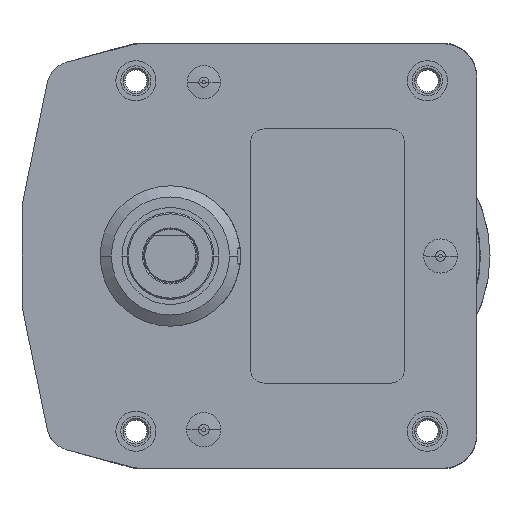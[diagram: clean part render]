
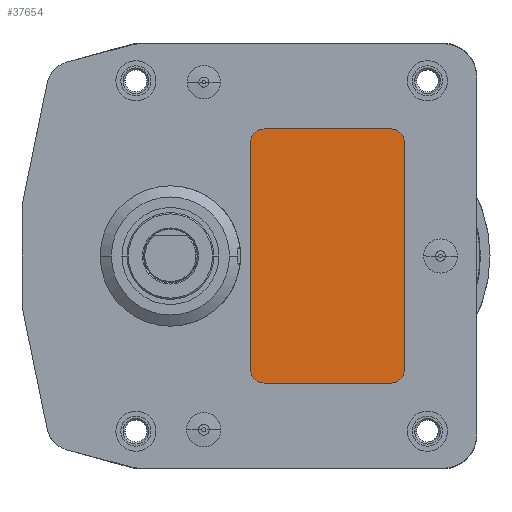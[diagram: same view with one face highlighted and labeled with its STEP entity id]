
A CAD part, left-side view. The second image highlights one B-rep face of the part: STEP entity #37654.
In plain terms, the highlighted planar face has unit normal (-1, 0, 0).
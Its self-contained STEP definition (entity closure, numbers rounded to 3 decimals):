
#4104=DIRECTION('',(0.,-1.,0.));
#4105=VECTOR('',#4104,19.);
#4106=CARTESIAN_POINT('',(-15.55,12.8,-19.));
#4107=LINE('',#4106,#4105);
#4116=DIRECTION('',(0.,0.,-1.));
#4117=VECTOR('',#4116,34.);
#4118=CARTESIAN_POINT('',(-15.55,14.8,17.));
#4119=LINE('',#4118,#4117);
#4128=DIRECTION('',(0.,1.,0.));
#4129=VECTOR('',#4128,19.);
#4130=CARTESIAN_POINT('',(-15.55,-6.2,19.));
#4131=LINE('',#4130,#4129);
#4140=DIRECTION('',(0.,0.,1.));
#4141=VECTOR('',#4140,34.);
#4142=CARTESIAN_POINT('',(-15.55,-8.2,-17.));
#4143=LINE('',#4142,#4141);
#4152=CARTESIAN_POINT('',(-15.55,12.8,17.));
#4153=DIRECTION('',(1.,0.,0.));
#4154=DIRECTION('',(0.,1.,0.));
#4155=AXIS2_PLACEMENT_3D('',#4152,#4153,#4154);
#4157=CARTESIAN_POINT('',(-15.55,-6.2,17.));
#4158=DIRECTION('',(1.,0.,0.));
#4159=DIRECTION('',(0.,0.,1.));
#4160=AXIS2_PLACEMENT_3D('',#4157,#4158,#4159);
#4162=CARTESIAN_POINT('',(-15.55,-6.2,-17.));
#4163=DIRECTION('',(1.,0.,0.));
#4164=DIRECTION('',(0.,-1.,0.));
#4165=AXIS2_PLACEMENT_3D('',#4162,#4163,#4164);
#4167=CARTESIAN_POINT('',(-15.55,12.8,-17.));
#4168=DIRECTION('',(1.,0.,0.));
#4169=DIRECTION('',(0.,0.,-1.));
#4170=AXIS2_PLACEMENT_3D('',#4167,#4168,#4169);
#26857=CARTESIAN_POINT('',(-15.55,12.8,-19.));
#26858=VERTEX_POINT('',#26857);
#26859=CARTESIAN_POINT('',(-15.55,-6.2,-19.));
#26860=VERTEX_POINT('',#26859);
#26861=CARTESIAN_POINT('',(-15.55,14.8,-17.));
#26862=VERTEX_POINT('',#26861);
#26863=CARTESIAN_POINT('',(-15.55,14.8,17.));
#26864=VERTEX_POINT('',#26863);
#26865=CARTESIAN_POINT('',(-15.55,12.8,19.));
#26866=VERTEX_POINT('',#26865);
#26867=CARTESIAN_POINT('',(-15.55,-6.2,19.));
#26868=VERTEX_POINT('',#26867);
#26869=CARTESIAN_POINT('',(-15.55,-8.2,17.));
#26870=VERTEX_POINT('',#26869);
#26871=CARTESIAN_POINT('',(-15.55,-8.2,-17.));
#26872=VERTEX_POINT('',#26871);
#37639=CARTESIAN_POINT('',(-15.55,3.3,0.));
#37640=DIRECTION('',(1.,0.,0.));
#37641=DIRECTION('',(0.,-1.,0.));
#37642=AXIS2_PLACEMENT_3D('',#37639,#37640,#37641);
#37643=PLANE('',#37642);
#37644=ORIENTED_EDGE('',*,*,#37578,.T.);
#37645=ORIENTED_EDGE('',*,*,#37592,.F.);
#37646=ORIENTED_EDGE('',*,*,#37606,.T.);
#37647=ORIENTED_EDGE('',*,*,#37620,.F.);
#37648=ORIENTED_EDGE('',*,*,#37633,.T.);
#37649=ORIENTED_EDGE('',*,*,#37535,.F.);
#37650=ORIENTED_EDGE('',*,*,#37550,.T.);
#37651=ORIENTED_EDGE('',*,*,#37564,.F.);
#37652=EDGE_LOOP('',(#37644,#37645,#37646,#37647,#37648,#37649,#37650,#37651));
#37653=FACE_OUTER_BOUND('',#37652,.F.);
#4156=CIRCLE('',#4155,2.);
#4161=CIRCLE('',#4160,2.);
#4166=CIRCLE('',#4165,2.);
#4171=CIRCLE('',#4170,2.);
#37535=EDGE_CURVE('',#26858,#26860,#4107,.T.);
#37550=EDGE_CURVE('',#26858,#26862,#4171,.T.);
#37564=EDGE_CURVE('',#26864,#26862,#4119,.T.);
#37578=EDGE_CURVE('',#26864,#26866,#4156,.T.);
#37592=EDGE_CURVE('',#26868,#26866,#4131,.T.);
#37606=EDGE_CURVE('',#26868,#26870,#4161,.T.);
#37620=EDGE_CURVE('',#26872,#26870,#4143,.T.);
#37633=EDGE_CURVE('',#26872,#26860,#4166,.T.);
#37654=ADVANCED_FACE('',(#37653),#37643,.F.);
